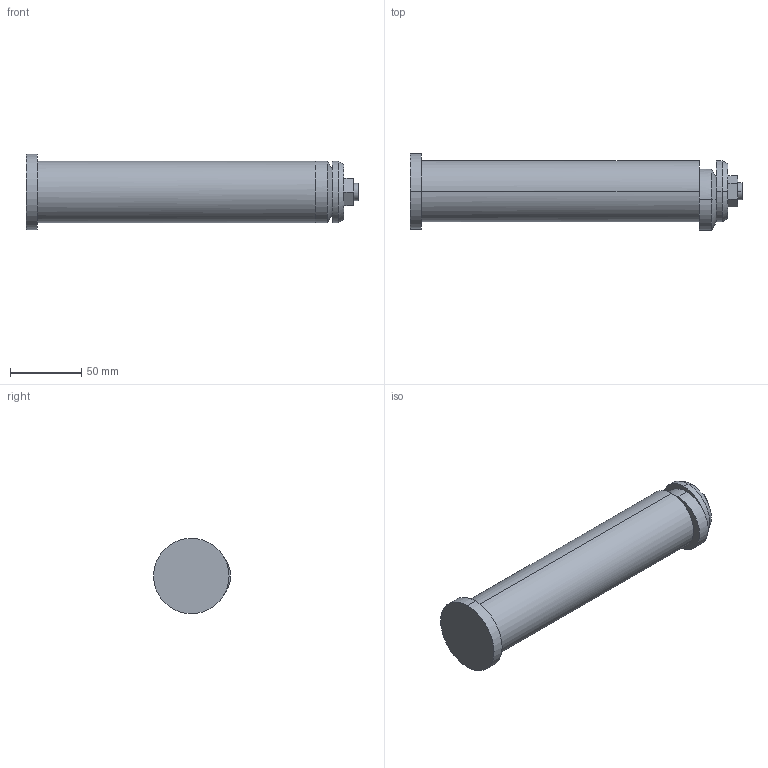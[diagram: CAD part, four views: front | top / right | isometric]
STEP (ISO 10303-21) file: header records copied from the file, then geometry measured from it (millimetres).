
FILE_DESCRIPTION(('CATIA V5 STEP Exchange'),'2;1');
FILE_NAME('C:\Users\Raffaele\Desktop\3D X SITO CF\PERNI -STAFFE SOLLEVAMENTO\395PSF\GSB_OILLESS_C10302043195\STEP-2.03\395PSF-3.stp','2019-07-03T08:39:00+00:00',('none'),('none'),'CATIA Version 5 Release 20 GA (IN-10)','CATIA V5 STEP AP203','none');
FILE_SCHEMA(('CONFIG_CONTROL_DESIGN'));
Length unit declared in the file: millimetre
Products named in the file (1): 395PSF-3
Bounding box: 233 x 54 x 53 mm (x, y, z)
Volume: 324493.7 mm3; surface area: 39179.5 mm2
Topology: 1 solids, 2 shells, 34 faces, 100 edges, 73 vertices
Faces by surface type: plane 16, cylinder 14, cone 4
Entity records: 1360 total; most frequent: CARTESIAN_POINT 422, ORIENTED_EDGE 200, DIRECTION 151, EDGE_CURVE 100, AXIS2_PLACEMENT_3D 82, VERTEX_POINT 73, CIRCLE 47, EDGE_LOOP 39
